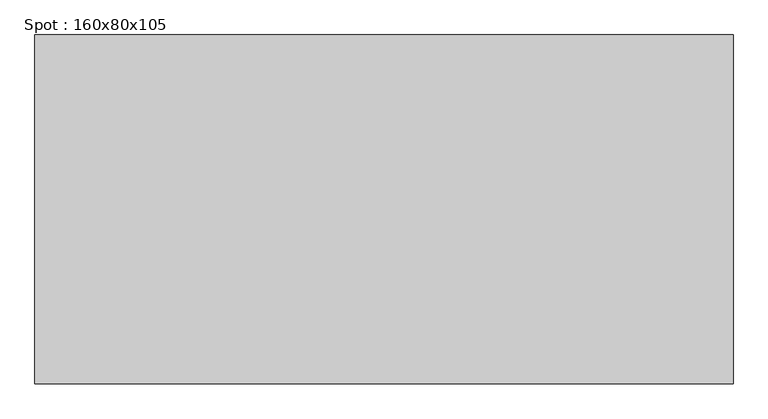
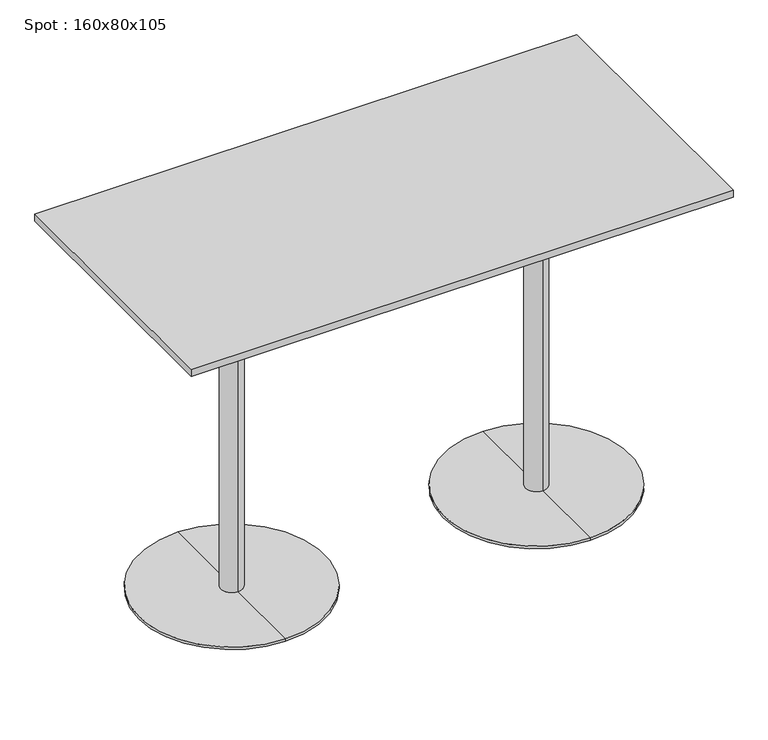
"""IFC4 building model written with IfcOpenShell, lengths in millimetres: furniture geometry, Spot : 160x80x105."""

from ifc_helpers import new_model, si_unit, frame, origin, place, context, project, spatial, polyline, circle_curve, outline, extrude, source, transform, mapped, element, save
from ifc_brep_helpers import plane_surface, cylinder_surface, revolved_surface, advanced_brep


def spot_160x80x105_da192f57(model_context):
    return source(origin(), model_context, "Body", "SolidModel", [
        extrude(outline(polyline([(800.0, 400.0), (800.0, -400.0), (-800.0, -400.0), (-800.0, 400.0), (800.0, 400.0)])), frame((0.0, 0.0, 1028.0), z_axis=(0.0, 0.0, 1.0), x_axis=(1.0, 0.0, 0.0)), (0.0, 0.0, 1.0), 22.0),
        advanced_brep(
        [(-450.0, 32.0, 10.0), (-450.0, -32.0, 10.0), (-450.0, -32.0, 997.406916), (-450.0, 32.0, 997.406916), (-450.0, 275.0, 10.0), (-450.0, -275.0, 10.0), (-450.0, 275.0, 2.0), (-450.0, -275.0, 2.0), (-450.0, 0.0, 2.0), (-450.0, 150.0, 1028.0), (-450.0, -150.0, 1028.0), (-450.0, 0.0, 1028.0), (-450.0, 150.0, 1016.7213673), (-450.0, -150.0, 1016.7213673)],
        [
            (0, 1, circle_curve(frame((-450.0, 0.0, 10.0), z_axis=(0.0, 0.0, 1.0), x_axis=(0.0, -1.0, 0.0)), 32.0)),
            (1, 2),
            (2, 3, circle_curve(frame((-450.0, 0.0, 997.406916), z_axis=(0.0, 0.0, -1.0), x_axis=(0.0, -1.0, 0.0)), 32.0)),
            (3, 0),
            (1, 0, circle_curve(frame((-450.0, 0.0, 10.0), z_axis=(0.0, 0.0, 1.0), x_axis=(0.0, -1.0, 0.0)), 32.0)),
            (3, 2, circle_curve(frame((-450.0, 0.0, 997.406916), z_axis=(0.0, 0.0, -1.0), x_axis=(0.0, -1.0, 0.0)), 32.0)),
            (4, 5, circle_curve(frame((-450.0, 0.0, 10.0), z_axis=(0.0, 0.0, 1.0), x_axis=(0.0, -1.0, 0.0)), 275.0)),
            (5, 1),
            (0, 4),
            (5, 4, circle_curve(frame((-450.0, 0.0, 10.0), z_axis=(0.0, 0.0, 1.0), x_axis=(0.0, -1.0, 0.0)), 275.0)),
            (6, 7, circle_curve(frame((-450.0, 0.0, 2.0), z_axis=(0.0, 0.0, 1.0), x_axis=(0.0, -1.0, 0.0)), 275.0)),
            (7, 5),
            (4, 6),
            (7, 6, circle_curve(frame((-450.0, 0.0, 2.0), z_axis=(0.0, 0.0, 1.0), x_axis=(0.0, -1.0, 0.0)), 275.0)),
            (8, 7),
            (6, 8),
            (9, 10, circle_curve(frame((-450.0, 0.0, 1028.0), z_axis=(0.0, 0.0, 1.0), x_axis=(0.0, -1.0, 0.0)), 150.0)),
            (10, 11),
            (11, 9),
            (10, 9, circle_curve(frame((-450.0, 0.0, 1028.0), z_axis=(0.0, 0.0, 1.0), x_axis=(0.0, -1.0, 0.0)), 150.0)),
            (12, 13, circle_curve(frame((-450.0, 0.0, 1016.7213673), z_axis=(0.0, 0.0, 1.0), x_axis=(0.0, -1.0, 0.0)), 150.0)),
            (13, 10),
            (9, 12),
            (13, 12, circle_curve(frame((-450.0, 0.0, 1016.7213673), z_axis=(0.0, 0.0, 1.0), x_axis=(0.0, -1.0, 0.0)), 150.0)),
            (2, 13),
            (12, 3),
        ],
        [
            cylinder_surface(frame((-450.0, 0.0, 1390.0), z_axis=(0.0, 0.0, -1.0), x_axis=(0.0, -1.0, 0.0)), 32.0),
            plane_surface(frame((-450.0, 0.0, 10.0), z_axis=(0.0, 0.0, 1.0), x_axis=(0.0, -1.0, 0.0))),
            cylinder_surface(frame((-450.0, 0.0, 1390.0), z_axis=(0.0, 0.0, -1.0), x_axis=(0.0, -1.0, 0.0)), 275.0),
            plane_surface(frame((-450.0, 0.0, 2.0), z_axis=(0.0, 0.0, -1.0), x_axis=(0.0, -1.0, 0.0))),
            plane_surface(frame((-450.0, 0.0, 1028.0), z_axis=(0.0, 0.0, 1.0), x_axis=(0.0, -1.0, 0.0))),
            cylinder_surface(frame((-450.0, 0.0, 1390.0), z_axis=(0.0, 0.0, -1.0), x_axis=(0.0, -1.0, 0.0)), 150.0),
            revolved_surface(polyline([(-450.0, -150.0, 1016.7213673), (-450.0, -32.0, 997.406916)]), (-450.0, 0.0, 1390.0), (0.0, 0.0, -1.0)),
        ],
        [
            (0, [[1, 2, 3, 4]]),
            (0, [[5, -4, 6, -2]]),
            (1, [[7, 8, -1, 9]]),
            (1, [[10, -9, -5, -8]]),
            (2, [[11, 12, -7, 13]]),
            (2, [[14, -13, -10, -12]]),
            (3, [[15, -11, 16]]),
            (3, [[-16, -14, -15]]),
            (4, [[17, 18, 19]]),
            (4, [[20, -19, -18]]),
            (5, [[21, 22, -17, 23]]),
            (5, [[24, -23, -20, -22]]),
            (6, [[-3, 25, -21, 26]]),
            (6, [[-6, -26, -24, -25]]),
        ],
    ),
        advanced_brep(
        [(450.0, 32.0, 10.0), (450.0, -32.0, 10.0), (450.0, -32.0, 997.406916), (450.0, 32.0, 997.406916), (450.0, 275.0, 10.0), (450.0, -275.0, 10.0), (450.0, 275.0, 2.0), (450.0, -275.0, 2.0), (450.0, 0.0, 2.0), (450.0, 150.0, 1028.0), (450.0, -150.0, 1028.0), (450.0, 0.0, 1028.0), (450.0, 150.0, 1016.7213673), (450.0, -150.0, 1016.7213673)],
        [
            (0, 1, circle_curve(frame((450.0, 0.0, 10.0), z_axis=(0.0, 0.0, 1.0), x_axis=(0.0, -1.0, 0.0)), 32.0)),
            (1, 2),
            (2, 3, circle_curve(frame((450.0, 0.0, 997.406916), z_axis=(0.0, 0.0, -1.0), x_axis=(0.0, -1.0, 0.0)), 32.0)),
            (3, 0),
            (1, 0, circle_curve(frame((450.0, 0.0, 10.0), z_axis=(0.0, 0.0, 1.0), x_axis=(0.0, -1.0, 0.0)), 32.0)),
            (3, 2, circle_curve(frame((450.0, 0.0, 997.406916), z_axis=(0.0, 0.0, -1.0), x_axis=(0.0, -1.0, 0.0)), 32.0)),
            (4, 5, circle_curve(frame((450.0, 0.0, 10.0), z_axis=(0.0, 0.0, 1.0), x_axis=(0.0, -1.0, 0.0)), 275.0)),
            (5, 1),
            (0, 4),
            (5, 4, circle_curve(frame((450.0, 0.0, 10.0), z_axis=(0.0, 0.0, 1.0), x_axis=(0.0, -1.0, 0.0)), 275.0)),
            (6, 7, circle_curve(frame((450.0, 0.0, 2.0), z_axis=(0.0, 0.0, 1.0), x_axis=(0.0, -1.0, 0.0)), 275.0)),
            (7, 5),
            (4, 6),
            (7, 6, circle_curve(frame((450.0, 0.0, 2.0), z_axis=(0.0, 0.0, 1.0), x_axis=(0.0, -1.0, 0.0)), 275.0)),
            (8, 7),
            (6, 8),
            (9, 10, circle_curve(frame((450.0, 0.0, 1028.0), z_axis=(0.0, 0.0, 1.0), x_axis=(0.0, -1.0, 0.0)), 150.0)),
            (10, 11),
            (11, 9),
            (10, 9, circle_curve(frame((450.0, 0.0, 1028.0), z_axis=(0.0, 0.0, 1.0), x_axis=(0.0, -1.0, 0.0)), 150.0)),
            (12, 13, circle_curve(frame((450.0, 0.0, 1016.7213673), z_axis=(0.0, 0.0, 1.0), x_axis=(0.0, -1.0, 0.0)), 150.0)),
            (13, 10),
            (9, 12),
            (13, 12, circle_curve(frame((450.0, 0.0, 1016.7213673), z_axis=(0.0, 0.0, 1.0), x_axis=(0.0, -1.0, 0.0)), 150.0)),
            (2, 13),
            (12, 3),
        ],
        [
            cylinder_surface(frame((450.0, 0.0, 1390.0), z_axis=(0.0, 0.0, -1.0), x_axis=(0.0, -1.0, 0.0)), 32.0),
            plane_surface(frame((450.0, 0.0, 10.0), z_axis=(0.0, 0.0, 1.0), x_axis=(0.0, -1.0, 0.0))),
            cylinder_surface(frame((450.0, 0.0, 1390.0), z_axis=(0.0, 0.0, -1.0), x_axis=(0.0, -1.0, 0.0)), 275.0),
            plane_surface(frame((450.0, 0.0, 2.0), z_axis=(0.0, 0.0, -1.0), x_axis=(0.0, -1.0, 0.0))),
            plane_surface(frame((450.0, 0.0, 1028.0), z_axis=(0.0, 0.0, 1.0), x_axis=(0.0, -1.0, 0.0))),
            cylinder_surface(frame((450.0, 0.0, 1390.0), z_axis=(0.0, 0.0, -1.0), x_axis=(0.0, -1.0, 0.0)), 150.0),
            revolved_surface(polyline([(450.0, -150.0, 1016.7213673), (450.0, -32.0, 997.406916)]), (450.0, 0.0, 1390.0), (0.0, 0.0, -1.0)),
        ],
        [
            (0, [[1, 2, 3, 4]]),
            (0, [[5, -4, 6, -2]]),
            (1, [[7, 8, -1, 9]]),
            (1, [[10, -9, -5, -8]]),
            (2, [[11, 12, -7, 13]]),
            (2, [[14, -13, -10, -12]]),
            (3, [[15, -11, 16]]),
            (3, [[-16, -14, -15]]),
            (4, [[17, 18, 19]]),
            (4, [[20, -19, -18]]),
            (5, [[21, 22, -17, 23]]),
            (5, [[24, -23, -20, -22]]),
            (6, [[-3, 25, -21, 26]]),
            (6, [[-6, -26, -24, -25]]),
        ],
    ),
    ])


if __name__ == "__main__":
    model = new_model("IFC4")
    model_context = context("Model", 3, world=origin())
    ifc_project = project(units=[si_unit("LENGTHUNIT", "METRE", prefix="MILLI")], contexts=[model_context])
    site = spatial("IfcSite", under=ifc_project)
    building = spatial("IfcBuilding", under=site)
    placement = place(None, origin())
    spot_160x80x105_shape = spot_160x80x105_da192f57(model_context)
    element("IfcFurniture", 1, ObjectType="Spot : 160x80x105", at=placement, inside=building, context=model_context, shape_type="MappedRepresentation", body=[
        mapped(spot_160x80x105_shape, transform((0.0, 0.0, 0.0), x_axis=(1.0, 0.0, 0.0), y_axis=(0.0, 1.0, 0.0), z_axis=(0.0, 0.0, 1.0))),
    ])
    save(model, "model.ifc")
